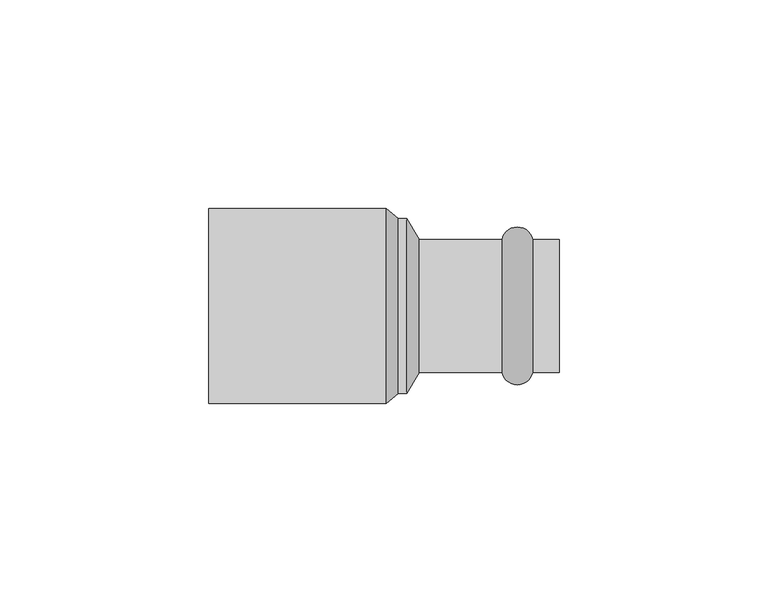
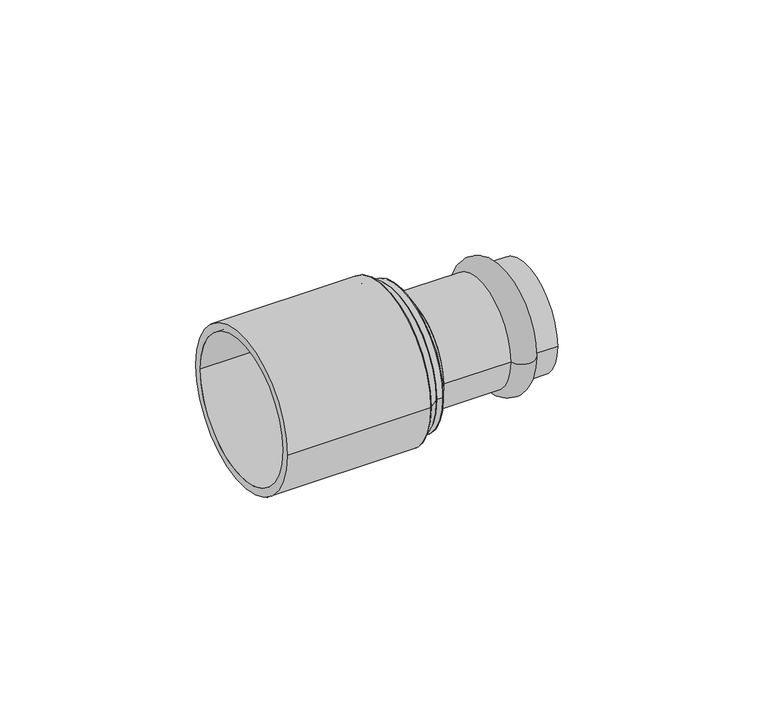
"""IFC4 building model written with IfcOpenShell, lengths in millimetres: pipe fitting geometry, VALTEC_VTi.905.I_Вставка переходная_Нержавеющая сталь : VTi.905.I."""

from ifc_helpers import new_model, si_unit, point, frame, origin, origin_2d, place, context, project, spatial, polyline, circle_curve, ellipse_curve, trimmed, segment, composite_curve, outline, extrude, source, transform, mapped, element, save
from ifc_brep_helpers import plane_surface, cylinder_surface, revolved_surface, advanced_brep


def pipe_fitting_e9e3b767(model_context):
    return source(origin(), model_context, "Body", "SolidModel", [
        advanced_brep(
        [(35.6242346, -15.9, 0.0), (28.2757654, -15.9, 0.0), (28.2757654, 15.9, 0.0), (35.6242346, 15.9, 0.0), (42.0, -15.9, 0.0), (42.0, 15.9, 0.0), (42.0, -14.0, 0.0), (42.0, 14.0, 0.0), (8.4, -14.0, 0.0), (8.4, 14.0, 0.0), (8.4, -15.9, 0.0), (8.4, 15.9, 0.0)],
        [
            (0, 1, circle_curve(frame((31.95, -15.15, 0.0), z_axis=(0.0, 0.0, -1.0), x_axis=(-1.0, 0.0, 0.0)), 3.75)),
            (1, 2, circle_curve(frame((28.2757654, 0.0, 0.0), z_axis=(1.0, 0.0, 0.0), x_axis=(0.0, 1.0, 0.0)), 15.9)),
            (2, 3, circle_curve(frame((31.95, 15.15, 0.0), z_axis=(0.0, 0.0, -1.0), x_axis=(-1.0, 0.0, 0.0)), 3.75)),
            (3, 0, circle_curve(frame((35.6242346, 0.0, 0.0), z_axis=(-1.0, 0.0, 0.0), x_axis=(0.0, 1.0, 0.0)), 15.9)),
            (2, 1, circle_curve(frame((28.2757654, 0.0, 0.0), z_axis=(1.0, 0.0, 0.0), x_axis=(0.0, 1.0, 0.0)), 15.9)),
            (0, 3, circle_curve(frame((35.6242346, 0.0, 0.0), z_axis=(-1.0, 0.0, 0.0), x_axis=(0.0, 1.0, 0.0)), 15.9)),
            (4, 0),
            (3, 5),
            (5, 4, circle_curve(frame((42.0, 0.0, 0.0), z_axis=(-1.0, 0.0, 0.0), x_axis=(0.0, 1.0, 0.0)), 15.9)),
            (4, 5, circle_curve(frame((42.0, 0.0, 0.0), z_axis=(-1.0, 0.0, 0.0), x_axis=(0.0, 1.0, 0.0)), 15.9)),
            (6, 4),
            (5, 7),
            (7, 6, circle_curve(frame((42.0, 0.0, 0.0), z_axis=(-1.0, 0.0, 0.0), x_axis=(0.0, 1.0, 0.0)), 14.0)),
            (6, 7, circle_curve(frame((42.0, 0.0, 0.0), z_axis=(-1.0, 0.0, 0.0), x_axis=(0.0, 1.0, 0.0)), 14.0)),
            (8, 6),
            (7, 9),
            (9, 8, circle_curve(frame((8.4, 0.0, 0.0), z_axis=(-1.0, 0.0, 0.0), x_axis=(0.0, 1.0, 0.0)), 14.0)),
            (8, 9, circle_curve(frame((8.4, 0.0, 0.0), z_axis=(-1.0, 0.0, 0.0), x_axis=(0.0, 1.0, 0.0)), 14.0)),
            (10, 8),
            (9, 11),
            (11, 10, circle_curve(frame((8.4, 0.0, 0.0), z_axis=(-1.0, 0.0, 0.0), x_axis=(0.0, 1.0, 0.0)), 15.9)),
            (10, 11, circle_curve(frame((8.4, 0.0, 0.0), z_axis=(-1.0, 0.0, 0.0), x_axis=(0.0, 1.0, 0.0)), 15.9)),
            (1, 10),
            (11, 2),
        ],
        [
            revolved_surface(trimmed(ellipse_curve(frame((31.95, 15.15, 0.0), z_axis=(0.0, 0.0, -1.0), x_axis=(-1.0, 0.0, 0.0)), 3.75, 3.75), [point((28.2757654, 15.9, 0.0))], [point((35.6242346, 15.9, 0.0))], True, "CARTESIAN"), (45.5364426, 0.0, 0.0), (1.0, 0.0, 0.0)),
            cylinder_surface(frame((45.5364426, 0.0, 0.0), z_axis=(1.0, 0.0, 0.0), x_axis=(0.0, 1.0, 0.0)), 15.9),
            plane_surface(frame((42.0, 0.0, 0.0), z_axis=(1.0, 0.0, 0.0), x_axis=(0.0, 1.0, 0.0))),
            revolved_surface(polyline([(42.0, 14.0, 0.0), (8.399999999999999, 14.0, 0.0)]), (45.5364426, 0.0, 0.0), (1.0, 0.0, 0.0)),
            plane_surface(frame((8.4, 0.0, 0.0), z_axis=(-1.0, 0.0, 0.0), x_axis=(0.0, 1.0, 0.0))),
        ],
        [
            (0, [[1, 2, 3, 4]]),
            (0, [[-3, 5, -1, 6]]),
            (1, [[7, -4, 8, 9]]),
            (1, [[-8, -6, -7, 10]]),
            (2, [[11, -9, 12, 13]]),
            (2, [[-12, -10, -11, 14]]),
            (3, [[15, -13, 16, 17]]),
            (3, [[-16, -14, -15, 18]]),
            (4, [[19, -17, 20, 21]]),
            (4, [[-20, -18, -19, 22]]),
            (1, [[23, -21, 24, -2]]),
            (1, [[-24, -22, -23, -5]]),
        ],
    ),
        advanced_brep(
        [(5.4, -21.0, 0.0), (5.4, 21.0, 0.0), (8.4, -15.9, 0.0), (8.4, 15.9, 0.0)],
        [
            (0, 1, circle_curve(frame((5.4, 0.0, 0.0), z_axis=(-1.0, 0.0, 0.0), x_axis=(0.0, -1.0, 0.0)), 21.0)),
            (1, 0, circle_curve(frame((5.4, 0.0, 0.0), z_axis=(-1.0, 0.0, 0.0), x_axis=(0.0, 1.0, 0.0)), 21.0)),
            (2, 3, circle_curve(frame((8.4, 0.0, 0.0), z_axis=(1.0, 0.0, 0.0), x_axis=(0.0, 1.0, 0.0)), 15.9)),
            (3, 2, circle_curve(frame((8.4, 0.0, 0.0), z_axis=(1.0, 0.0, 0.0), x_axis=(0.0, -1.0, 0.0)), 15.9)),
            (2, 0),
            (1, 3),
        ],
        [
            plane_surface(frame((5.4, 0.0, 0.0), z_axis=(-1.0, 0.0, 0.0), x_axis=(0.0, 0.0, 1.0))),
            plane_surface(frame((8.4, 0.0, 0.0), z_axis=(1.0, 0.0, 0.0), x_axis=(0.0, 0.0, 1.0))),
            revolved_surface(polyline([(8.4, -15.900000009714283, 0.0), (5.4, -21.0, 0.0)]), (17.7529412, 0.0, 0.0), (-1.0, 0.0, 0.0)),
            revolved_surface(polyline([(8.4, 15.900000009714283, 0.0), (5.4, 21.0, 0.0)]), (17.7529412, 0.0, 0.0), (-1.0, 0.0, 0.0)),
        ],
        [
            (0, [[1, 2]]),
            (1, [[3, 4]]),
            (2, [[-3, 5, -2, 6]]),
            (3, [[-4, -6, -1, -5]]),
        ],
    ),
        extrude(outline(composite_curve([segment(trimmed(circle_curve(origin_2d(), 21.0), [point((-21.0, 0.0))], [point((21.0, 0.0))], False, "CARTESIAN"), True, "CONTINUOUS"), segment(trimmed(circle_curve(origin_2d(), 21.0), [point((21.0, 0.0))], [point((-21.0, 0.0))], False, "CARTESIAN"), True, "CONTINUOUS")], self_intersect=False)), frame((3.4, 0.0, 0.0), z_axis=(1.0, 0.0, 0.0), x_axis=(0.0, 1.0, 0.0)), (0.0, 0.0, 1.0), 2.0),
        advanced_brep(
        [(3.4, -21.0, 0.0), (3.4, 21.0, 0.0), (0.5, -23.35, 0.0), (0.5, 23.35, 0.0)],
        [
            (0, 1, circle_curve(frame((3.4, 0.0, 0.0), z_axis=(1.0, 0.0, 0.0), x_axis=(0.0, -1.0, 0.0)), 21.0)),
            (1, 0, circle_curve(frame((3.4, 0.0, 0.0), z_axis=(1.0, 0.0, 0.0), x_axis=(0.0, 1.0, 0.0)), 21.0)),
            (2, 3, circle_curve(frame((0.5, 0.0, 0.0), z_axis=(-1.0, 0.0, 0.0), x_axis=(0.0, 1.0, 0.0)), 23.35)),
            (3, 2, circle_curve(frame((0.5, 0.0, 0.0), z_axis=(-1.0, 0.0, 0.0), x_axis=(0.0, -1.0, 0.0)), 23.35)),
            (3, 1),
            (0, 2),
        ],
        [
            plane_surface(frame((3.4, 0.0, 0.0), z_axis=(1.0, 0.0, 0.0), x_axis=(0.0, 0.0, -1.0))),
            plane_surface(frame((0.5, 0.0, 0.0), z_axis=(-1.0, 0.0, 0.0), x_axis=(0.0, 0.0, -1.0))),
            revolved_surface(polyline([(3.3999999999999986, -20.99999999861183, 0.0), (0.5, -23.35, 0.0)]), (29.3148936, 0.0, 0.0), (-1.0, 0.0, 0.0)),
            revolved_surface(polyline([(3.3999999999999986, 20.99999999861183, 0.0), (0.5, 23.35, 0.0)]), (29.3148936, 0.0, 0.0), (-1.0, 0.0, 0.0)),
        ],
        [
            (0, [[1, 2]]),
            (1, [[3, 4]]),
            (2, [[-4, 5, -1, 6]]),
            (3, [[-3, -6, -2, -5]]),
        ],
    ),
        extrude(outline(composite_curve([segment(trimmed(circle_curve(origin_2d(), 23.35), [point((-23.35, 0.0))], [point((23.35, 0.0))], False, "CARTESIAN"), True, "CONTINUOUS"), segment(trimmed(circle_curve(origin_2d(), 23.35), [point((23.35, 0.0))], [point((-23.35, 0.0))], False, "CARTESIAN"), True, "CONTINUOUS")], self_intersect=False), holes=[composite_curve([segment(trimmed(circle_curve(origin_2d(), 21.0), [point((-21.0, 0.0))], [point((21.0, 0.0))], True, "CARTESIAN"), True, "CONTINUOUS"), segment(trimmed(circle_curve(origin_2d(), 21.0), [point((21.0, 0.0))], [point((-21.0, 0.0))], True, "CARTESIAN"), True, "CONTINUOUS")], self_intersect=False)]), frame((-42.0, 0.0, 0.0), z_axis=(1.0, 0.0, 0.0), x_axis=(0.0, 1.0, 0.0)), (0.0, 0.0, 1.0), 42.5),
    ])


if __name__ == "__main__":
    model = new_model("IFC4")
    model_context = context("Model", 3, world=origin())
    ifc_project = project(units=[si_unit("LENGTHUNIT", "METRE", prefix="MILLI")], contexts=[model_context])
    site = spatial("IfcSite", under=ifc_project)
    building = spatial("IfcBuilding", under=site)
    placement = place(None, origin())
    pipe_fitting_shape = pipe_fitting_e9e3b767(model_context)
    element("IfcPipeFitting", 1, ObjectType="VALTEC_VTi.905.I_Вставка переходная_Нержавеющая сталь : VTi.905.I", at=placement, inside=building, context=model_context, shape_type="MappedRepresentation", body=[
        mapped(pipe_fitting_shape, transform((0.0, 0.0, 0.0), x_axis=(1.0, 0.0, 0.0), y_axis=(0.0, 1.0, 0.0), z_axis=(0.0, 0.0, 1.0))),
    ])
    save(model, "model.ifc")
